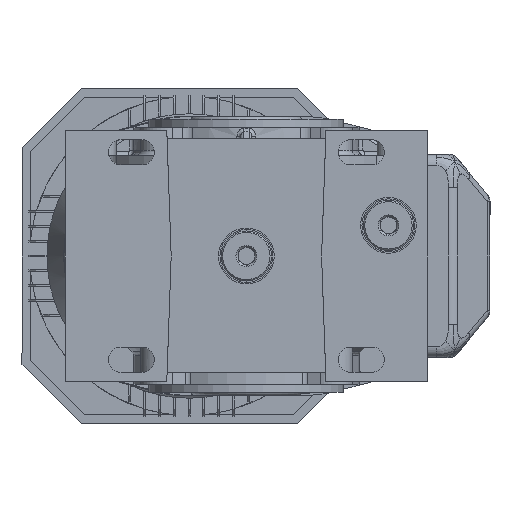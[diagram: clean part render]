
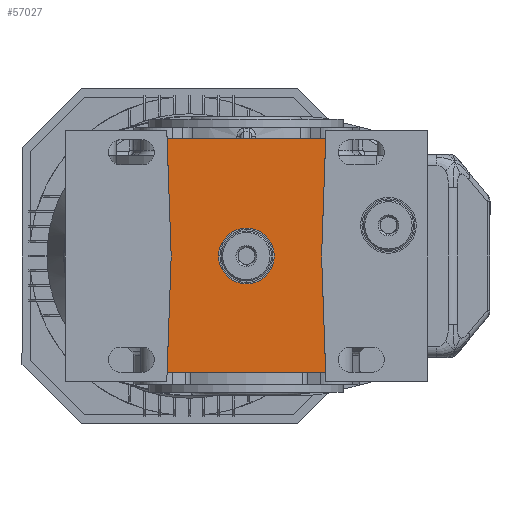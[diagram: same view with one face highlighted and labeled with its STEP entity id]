
A CAD part, left-side view. The second image highlights one B-rep face of the part: STEP entity #57027.
In plain terms, the highlighted planar face has unit normal (-1, 0, 0).
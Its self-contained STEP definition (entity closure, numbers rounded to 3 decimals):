
#32054=CARTESIAN_POINT('',(-63.5,-27.,0.0));
#32055=VERTEX_POINT('',#32054);
#32062=CARTESIAN_POINT('',(-63.5,-28.467,-42.0));
#32063=VERTEX_POINT('',#32062);
#32064=CARTESIAN_POINT('',(-63.5,-28.467,-42.0));
#32065=DIRECTION('',(0.0,0.035,0.999));
#32066=VECTOR('',#32065,42.026);
#32067=LINE('',#32064,#32066);
#32068=EDGE_CURVE('',#32063,#32055,#32067,.T.);
#39357=CARTESIAN_POINT('',(-63.5,0.,10.0));
#39358=VERTEX_POINT('',#39357);
#39359=CARTESIAN_POINT('',(-63.5,0.,0.0));
#39360=DIRECTION('',(1.0,0.0,0.0));
#39361=DIRECTION('',(0.0,0.0,1.0));
#39362=AXIS2_PLACEMENT_3D('',#39359,#39360,#39361);
#39363=CIRCLE('',#39362,10.0);
#39364=EDGE_CURVE('',#39358,#39358,#39363,.T.);
#56238=CARTESIAN_POINT('',(-63.5,28.467,-42.));
#56239=VERTEX_POINT('',#56238);
#56246=CARTESIAN_POINT('',(-63.5,27.,0.0));
#56247=VERTEX_POINT('',#56246);
#56248=CARTESIAN_POINT('',(-63.5,27.,0.0));
#56249=DIRECTION('',(0.0,0.035,-0.999));
#56250=VECTOR('',#56249,42.026);
#56251=LINE('',#56248,#56250);
#56252=EDGE_CURVE('',#56247,#56239,#56251,.T.);
#56876=CARTESIAN_POINT('',(-63.5,28.467,42.));
#56877=VERTEX_POINT('',#56876);
#56884=CARTESIAN_POINT('',(-63.5,-28.467,42.0));
#56885=VERTEX_POINT('',#56884);
#56886=CARTESIAN_POINT('',(-63.5,-28.467,42.0));
#56887=DIRECTION('',(0.0,1.0,0.0));
#56888=VECTOR('',#56887,56.933);
#56889=LINE('',#56886,#56888);
#56890=EDGE_CURVE('',#56885,#56877,#56889,.T.);
#56996=CARTESIAN_POINT('',(-63.5,0.,0.));
#56997=DIRECTION('',(-1.0,0.0,0.0));
#56998=DIRECTION('',(0.0,0.0,1.0));
#56999=AXIS2_PLACEMENT_3D('',#56996,#56997,#56998);
#57000=PLANE('',#56999);
#57001=CARTESIAN_POINT('',(-63.5,28.467,-42.));
#57002=DIRECTION('',(0.0,-1.0,0.0));
#57003=VECTOR('',#57002,56.933);
#57004=LINE('',#57001,#57003);
#57005=EDGE_CURVE('',#56239,#32063,#57004,.T.);
#57006=ORIENTED_EDGE('',*,*,#57005,.T.);
#57007=ORIENTED_EDGE('',*,*,#32068,.T.);
#57008=CARTESIAN_POINT('',(-63.5,-27.,0.0));
#57009=DIRECTION('',(0.0,-0.035,0.999));
#57010=VECTOR('',#57009,42.026);
#57011=LINE('',#57008,#57010);
#57012=EDGE_CURVE('',#32055,#56885,#57011,.T.);
#57013=ORIENTED_EDGE('',*,*,#57012,.T.);
#57014=ORIENTED_EDGE('',*,*,#56890,.T.);
#57015=CARTESIAN_POINT('',(-63.5,28.467,42.));
#57016=DIRECTION('',(0.0,-0.035,-0.999));
#57017=VECTOR('',#57016,42.026);
#57018=LINE('',#57015,#57017);
#57019=EDGE_CURVE('',#56877,#56247,#57018,.T.);
#57020=ORIENTED_EDGE('',*,*,#57019,.T.);
#57021=ORIENTED_EDGE('',*,*,#56252,.T.);
#57022=EDGE_LOOP('',(#57006,#57007,#57013,#57014,#57020,#57021));
#57023=FACE_OUTER_BOUND('',#57022,.T.);
#57024=ORIENTED_EDGE('',*,*,#39364,.T.);
#57025=EDGE_LOOP('',(#57024));
#57026=FACE_BOUND('',#57025,.T.);
#57027=ADVANCED_FACE('',(#57023,#57026),#57000,.T.);
